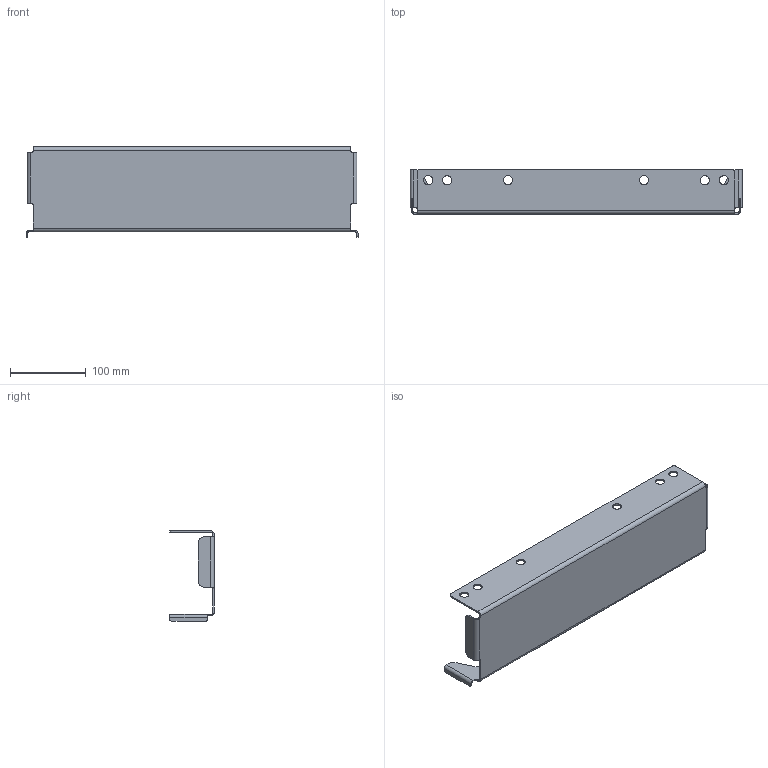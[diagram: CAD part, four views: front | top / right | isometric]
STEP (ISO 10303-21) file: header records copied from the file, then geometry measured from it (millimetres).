
FILE_DESCRIPTION(('CATIA V5 STEP Exchange'),'2;1');
FILE_NAME('E:\吉利商用车G3\10 2D\钣金单件图纸\SHT0015279-标配底支架左边板\SHT0015279.stp','2023-03-02T06:55:19+00:00',('none'),('none'),'CATIA Version 5 Release 20 GA (IN-10)','CATIA V5 STEP AP214','none');
FILE_SCHEMA(('AUTOMOTIVE_DESIGN { 1 0 10303 214 1 1 1 1 }'));
Length unit declared in the file: millimetre
Products named in the file (1): Part98
Bounding box: 439 x 59 x 119.7 mm (x, y, z)
Volume: 168991.7 mm3; surface area: 172358.2 mm2
Topology: 1 solids, 1 shells, 92 faces, 258 edges, 168 vertices
Faces by surface type: cylinder 56, plane 36
Entity records: 3219 total; most frequent: CARTESIAN_POINT 935, ORIENTED_EDGE 516, DIRECTION 377, EDGE_CURVE 258, VERTEX_POINT 168, AXIS2_PLACEMENT_3D 158, VECTOR 142, LINE 142
